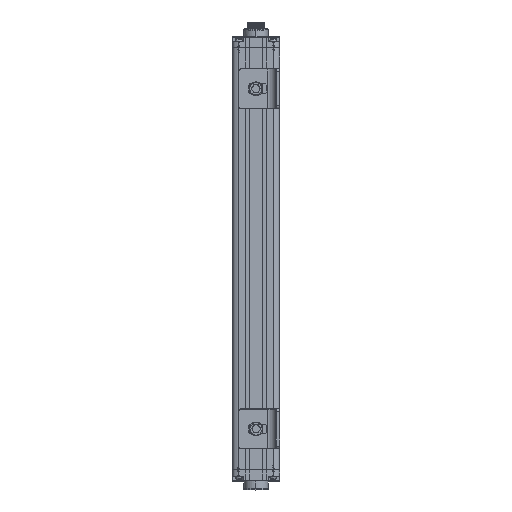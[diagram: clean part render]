
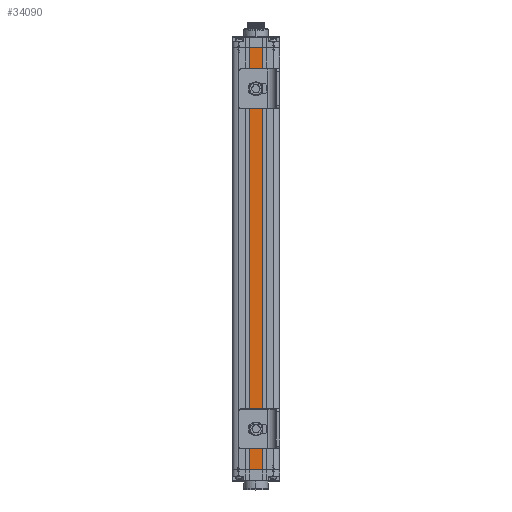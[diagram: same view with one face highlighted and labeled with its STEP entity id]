
A CAD part, top view. The second image highlights one B-rep face of the part: STEP entity #34090.
In plain terms, the highlighted planar face has unit normal (0, 0, 1).
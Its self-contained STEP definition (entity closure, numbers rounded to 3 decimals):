
#597 = VERTEX_POINT ( 'NONE', #81357 ) ;
#10925 = CARTESIAN_POINT ( 'NONE',  ( -7.9, 305., 8.525 ) ) ;
#14780 = FACE_OUTER_BOUND ( 'NONE', #66159, .T. ) ;
#14818 = LINE ( 'NONE', #87365, #39149 ) ;
#17387 = CARTESIAN_POINT ( 'NONE',  ( -7.9, 0., 8.525 ) ) ;
#17554 = EDGE_CURVE ( 'NONE', #42595, #40430, #18721, .T. ) ;
#18721 = LINE ( 'NONE', #17387, #100803 ) ;
#23490 = CARTESIAN_POINT ( 'NONE',  ( 7.9, 0., 8.525 ) ) ;
#26724 = VERTEX_POINT ( 'NONE', #23490 ) ;
#28477 = ORIENTED_EDGE ( 'NONE', *, *, #54100, .T. ) ;
#28645 = DIRECTION ( 'NONE',  ( 0., 1., 0. ) ) ;
#34090 = ADVANCED_FACE ( 'NONE', ( #14780 ), #104179, .T. ) ;
#37778 = CARTESIAN_POINT ( 'NONE',  ( -7.9, 0., 8.525 ) ) ;
#38078 = VECTOR ( 'NONE', #46314, 1000. ) ;
#39149 = VECTOR ( 'NONE', #65420, 1000. ) ;
#40430 = VERTEX_POINT ( 'NONE', #108727 ) ;
#42595 = VERTEX_POINT ( 'NONE', #10925 ) ;
#45756 = ORIENTED_EDGE ( 'NONE', *, *, #91124, .T. ) ;
#46314 = DIRECTION ( 'NONE',  ( -1., 0., 0. ) ) ;
#53424 = ORIENTED_EDGE ( 'NONE', *, *, #102134, .T. ) ;
#54100 = EDGE_CURVE ( 'NONE', #40430, #26724, #14818, .T. ) ;
#65420 = DIRECTION ( 'NONE',  ( 1., 0., 0. ) ) ;
#66159 = EDGE_LOOP ( 'NONE', ( #112349, #28477, #53424, #45756 ) ) ;
#67801 = LINE ( 'NONE', #91662, #38078 ) ;
#77866 = VECTOR ( 'NONE', #28645, 1000. ) ;
#81357 = CARTESIAN_POINT ( 'NONE',  ( 7.9, 305., 8.525 ) ) ;
#83823 = CARTESIAN_POINT ( 'NONE',  ( 7.9, 0., 8.525 ) ) ;
#87365 = CARTESIAN_POINT ( 'NONE',  ( -7.9, 0., 8.525 ) ) ;
#91124 = EDGE_CURVE ( 'NONE', #597, #42595, #67801, .T. ) ;
#91662 = CARTESIAN_POINT ( 'NONE',  ( -7.9, 305., 8.525 ) ) ;
#93416 = DIRECTION ( 'NONE',  ( 0., 0., 1. ) ) ;
#100803 = VECTOR ( 'NONE', #118924, 1000. ) ;
#102134 = EDGE_CURVE ( 'NONE', #26724, #597, #123263, .T. ) ;
#104179 = PLANE ( 'NONE',  #128523 ) ;
#105137 = DIRECTION ( 'NONE',  ( 1., 0., 0. ) ) ;
#108727 = CARTESIAN_POINT ( 'NONE',  ( -7.9, 0., 8.525 ) ) ;
#112349 = ORIENTED_EDGE ( 'NONE', *, *, #17554, .T. ) ;
#118924 = DIRECTION ( 'NONE',  ( 0., -1., 0. ) ) ;
#123263 = LINE ( 'NONE', #83823, #77866 ) ;
#128523 = AXIS2_PLACEMENT_3D ( 'NONE', #37778, #93416, #105137 ) ;
